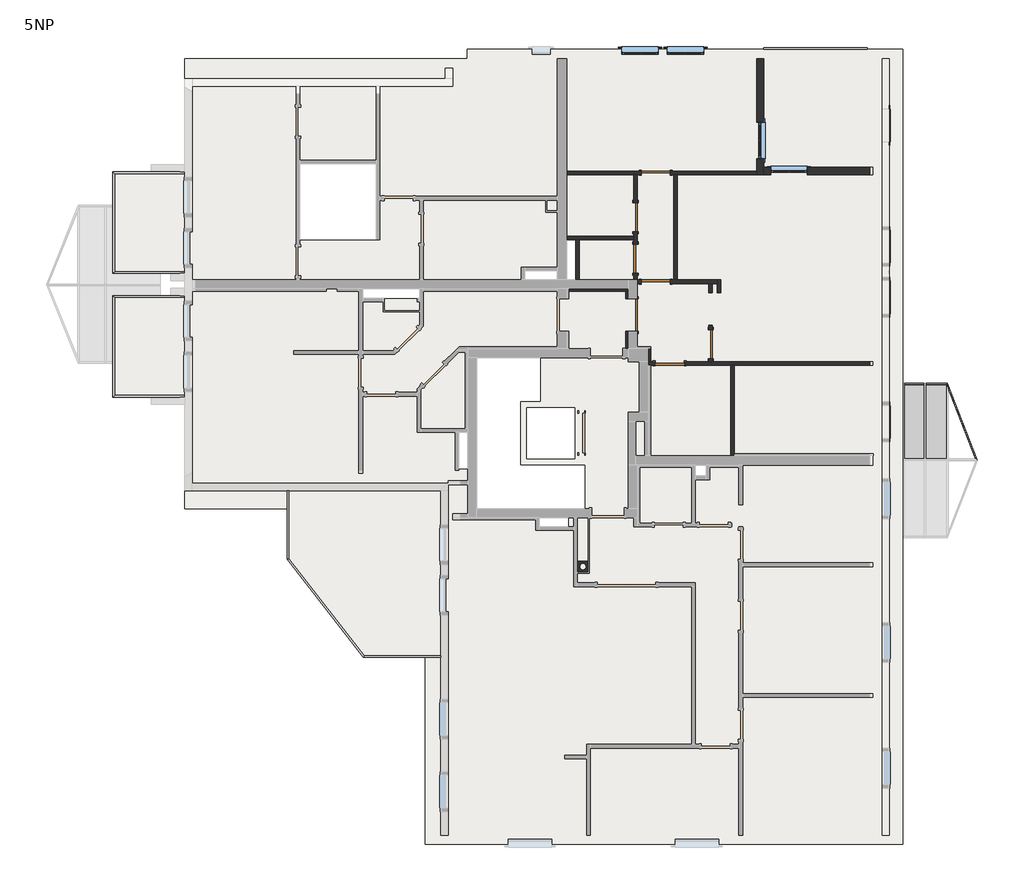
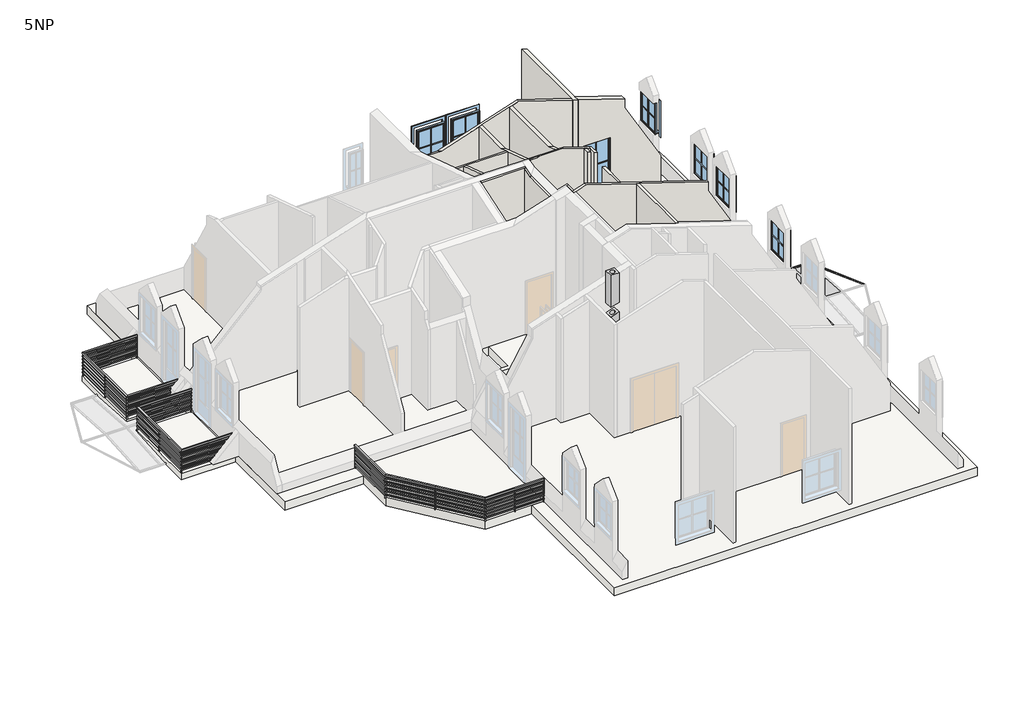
# One storey, part 4 of 4: 16 walls, 8 windows, 7 doors, 4 railings, 4 slabs, 3 members, 2 plates, 1 column.
"""IFC4 building model written with IfcOpenShell, lengths in millimetres."""

from ifc_helpers import new_model, si_unit, frame, origin, place, context, project, spatial, polyline, circle_curve, ellipse_curve, outline, extrude, faceted_brep, transform, mapped, element, save
from ifc_brep_helpers import plane_surface, revolved_surface, advanced_brep
from components import sd_800x2000_6a16926d, sd_800x2000_80f4ff25, sd_900x2000_4224ae2a, rectangular_mullion_40_40_b7ecf7f3, rectangular_mullion_40_40_b48b72c3, rectangular_mullion_40_40_e9a3077c, system_panel_system_panel_b659144f, system_panel_system_panel_996e8192, railing_900mm_pipe_e7dff587, railing_900mm_pipe_7398d77a, railing_900mm_pipe_5438d2cb, railing_900mm_pipe_97c98137, standard_window_with_mullions_12e20a72, standard_window_with_mullions_4f38f980, window_2_5e4ade40, window_2_40adfcd9

model = new_model("IFC4")

# Units and contexts
model_context = context("Model", 3, world=origin())
ifc_project = project(units=[si_unit("LENGTHUNIT", "METRE", prefix="MILLI")], contexts=[model_context])

# Site, building, storey
site = spatial("IfcSite", under=ifc_project)
building = spatial("IfcBuilding", under=site)
storey = spatial("IfcBuildingStorey", under=building, Name="5NP", Elevation=11800.0)

# Column
placement = place(None, origin())
element("IfcColumn", 1, ObjectType="AT Kamin : 300/300/160", at=placement, inside=storey, context=model_context, shape_type="AdvancedBrep", body=[
    advanced_brep(
    [(463.5618728, -3282.3709459, 17750.0), (163.5618728, -3282.3709459, 17750.0), (163.5618728, -3582.3709459, 17750.0), (463.5618728, -3582.3709459, 17750.0), (233.5618728, -3432.3709459, 17750.0), (393.5618728, -3432.3709459, 17750.0), (463.5618728, -3282.3709459, 16623.4506996), (163.5618728, -3282.3709459, 16525.9747908), (163.5618728, -3582.3709459, 16525.9747908), (463.5618728, -3582.3709459, 16623.4506996), (233.5618728, -3432.3709459, 16548.7191695), (393.5618728, -3432.3709459, 16600.7063209)],
    [
        (0, 1),
        (1, 2),
        (2, 3),
        (3, 0),
        (4, 5, circle_curve(frame((313.5618728, -3432.3709459, 17750.0), z_axis=(0.0, 0.0, -1.0), x_axis=(1.0, 0.0, 0.0)), 80.0)),
        (5, 4, circle_curve(frame((313.5618728, -3432.3709459, 17750.0), z_axis=(0.0, 0.0, -1.0), x_axis=(1.0, 0.0, 0.0)), 80.0)),
        (0, 6),
        (6, 7),
        (7, 1),
        (7, 8),
        (8, 2),
        (8, 9),
        (9, 3),
        (9, 6),
        (4, 10),
        (10, 11, ellipse_curve(frame((313.5618728, -3432.3709459, 16574.7127452), z_axis=(0.30901699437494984, 0.0, -0.9510565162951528), x_axis=(-0.9510565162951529, 0.0, -0.30901699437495)), 84.1169779, 80.0)),
        (11, 5),
        (11, 10, ellipse_curve(frame((313.5618728, -3432.3709459, 16574.7127452), z_axis=(0.30901699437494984, 0.0, -0.9510565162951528), x_axis=(-0.9510565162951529, 0.0, -0.30901699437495)), 84.1169779, 80.0)),
    ],
    [
        plane_surface(frame((163.5618728, -3282.3709459, 17750.0), z_axis=(0.0, 0.0, 1.0), x_axis=(-1.0, 0.0, 0.0))),
        plane_surface(frame((463.5618728, -3282.3709459, 17750.0), z_axis=(0.0, 1.0, 0.0), x_axis=(0.0, 0.0, -1.0))),
        plane_surface(frame((163.5618728, -3282.3709459, 17750.0), z_axis=(-1.0, 0.0, 0.0), x_axis=(0.0, 0.0, -1.0))),
        plane_surface(frame((163.5618728, -3582.3709459, 17750.0), z_axis=(0.0, -1.0, 0.0), x_axis=(0.0, 0.0, -1.0))),
        plane_surface(frame((463.5618728, -3582.3709459, 17750.0), z_axis=(1.0, 0.0, 0.0), x_axis=(0.0, 0.0, -1.0))),
        revolved_surface(polyline([(393.5618728, -3432.3709459, 16548.7191695), (393.5618728, -3432.3709459, 17750.0)]), (313.5618728, -3432.3709459, 11800.0), (0.0, 0.0, -1.0)),
        plane_surface(frame((-1841.5846805, 437.0391776, 15874.4631818), z_axis=(0.30901699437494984, 0.0, -0.9510565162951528), x_axis=(0.0, -1.0, 0.0))),
    ],
    [
        (0, [[1, 2, 3, 4], [5, 6]]),
        (1, [[-1, 7, 8, 9]]),
        (2, [[-2, -9, 10, 11]]),
        (3, [[-3, -11, 12, 13]]),
        (4, [[-4, -13, 14, -7]]),
        (5, [[-5, 15, 16, 17]]),
        (5, [[-6, -17, 18, -15]]),
        (6, [[-8, -14, -12, -10], [-16, -18]]),
    ],
),
    advanced_brep(
    [(463.5618728, -3282.3709459, 11800.0), (463.5618728, -3582.3709459, 11800.0), (163.5618728, -3582.3709459, 11800.0), (163.5618728, -3282.3709459, 11800.0), (233.5618728, -3432.3709459, 11800.0), (393.5618728, -3432.3709459, 11800.0), (463.5618728, -3282.3709459, 16244.9242989), (163.5618728, -3282.3709459, 16147.44839), (163.5618728, -3582.3709459, 16147.44839), (463.5618728, -3582.3709459, 16244.9242989), (233.5618728, -3432.3709459, 16170.1927688), (393.5618728, -3432.3709459, 16222.1799202), (163.5618728, -3582.3709459, 14750.0), (463.5618728, -3582.3709459, 14750.0)],
    [
        (0, 1),
        (1, 2),
        (2, 3),
        (3, 0),
        (4, 5, circle_curve(frame((313.5618728, -3432.3709459, 11800.0), z_axis=(0.0, 0.0, 1.0), x_axis=(1.0, 0.0, 0.0)), 80.0)),
        (5, 4, circle_curve(frame((313.5618728, -3432.3709459, 11800.0), z_axis=(0.0, 0.0, 1.0), x_axis=(1.0, 0.0, 0.0)), 80.0)),
        (6, 7),
        (7, 8),
        (8, 9),
        (9, 6),
        (10, 11, ellipse_curve(frame((313.5618728, -3432.3709459, 16196.1863445), z_axis=(0.30901699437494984, 0.0, -0.9510565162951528), x_axis=(-0.9510565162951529, 0.0, -0.30901699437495)), 84.1169779, 80.0)),
        (11, 10, ellipse_curve(frame((313.5618728, -3432.3709459, 16196.1863445), z_axis=(0.30901699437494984, 0.0, -0.9510565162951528), x_axis=(-0.9510565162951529, 0.0, -0.30901699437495)), 84.1169779, 80.0)),
        (3, 7),
        (6, 0),
        (2, 12),
        (12, 8),
        (1, 13),
        (13, 9),
        (5, 11),
        (10, 4),
    ],
    [
        plane_surface(frame((163.5618728, -3282.3709459, 11800.0), z_axis=(0.0, 0.0, -1.0), x_axis=(1.0, 0.0, 0.0))),
        plane_surface(frame((-1841.5846805, 437.0391776, 15495.936781), z_axis=(-0.30901699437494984, 0.0, 0.9510565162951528), x_axis=(0.0, -1.0, 0.0))),
        plane_surface(frame((463.5618728, -3282.3709459, 17750.0), z_axis=(0.0, 1.0, 0.0), x_axis=(0.0, 0.0, -1.0))),
        plane_surface(frame((163.5618728, -3282.3709459, 17750.0), z_axis=(-1.0, 0.0, 0.0), x_axis=(0.0, 0.0, -1.0))),
        plane_surface(frame((163.5618728, -3582.3709459, 17750.0), z_axis=(0.0, -1.0, 0.0), x_axis=(0.0, 0.0, -1.0))),
        plane_surface(frame((463.5618728, -3582.3709459, 17750.0), z_axis=(1.0, 0.0, 0.0), x_axis=(0.0, 0.0, -1.0))),
        revolved_surface(polyline([(393.5618728, -3432.3709459, 11800.0), (393.5618728, -3432.3709459, 16222.1799202)]), (313.5618728, -3432.3709459, 11800.0), (0.0, 0.0, -1.0)),
    ],
    [
        (0, [[1, 2, 3, 4], [5, 6]]),
        (1, [[7, 8, 9, 10], [11, 12]]),
        (2, [[-4, 13, -7, 14]]),
        (3, [[-3, 15, 16, -8, -13]]),
        (4, [[-2, 17, 18, -9, -16, -15]]),
        (5, [[-1, -14, -10, -18, -17]]),
        (6, [[-6, 19, -11, 20]]),
        (6, [[-5, -20, -12, -19]]),
    ],
),
])

# Doors
sd_800x2000_shape = sd_800x2000_6a16926d(model_context)
element("IfcDoor", 2, ObjectType="JednokridlePlne : SD 800x2000", at=placement, inside=storey, context=model_context, shape_type="MappedRepresentation", body=[
    mapped(sd_800x2000_shape, transform((1762.8037835, 6195.7160827, 11800.0), x_axis=(0.0, 1.0, 0.0), y_axis=(-1.0, 0.0, 0.0), z_axis=(0.0, 0.0, 1.0))),
])
element("IfcDoor", 3, ObjectType="JednokridlePlne : SD 800x2000", at=placement, inside=storey, context=model_context, shape_type="MappedRepresentation", body=[
    mapped(sd_800x2000_shape, transform((3832.8037835, 2700.9736217, 11800.0), x_axis=(0.0, 1.0, 0.0), y_axis=(-1.0, 0.0, 0.0), z_axis=(0.0, 0.0, 1.0))),
])
element("IfcDoor", 4, ObjectType="JednokridlePlne : SD 800x2000", at=placement, inside=storey, context=model_context, shape_type="MappedRepresentation", body=[
    mapped(sd_800x2000_shape, transform((2702.9629379, 2166.2076978, 11800.0), x_axis=(1.0, 0.0, 0.0), y_axis=(0.0, 1.0, 0.0), z_axis=(0.0, 0.0, 1.0))),
])
sd_800x2000_2_shape = sd_800x2000_80f4ff25(model_context)
element("IfcDoor", 5, ObjectType="JednokridlePlne : SD 800x2000", at=placement, inside=storey, context=model_context, shape_type="MappedRepresentation", body=[
    mapped(sd_800x2000_2_shape, transform((2320.391243, 7417.6290541, 11800.0), x_axis=(1.0, 0.0, 0.0), y_axis=(0.0, 1.0, 0.0), z_axis=(0.0, 0.0, 1.0))),
])
element("IfcDoor", 6, ObjectType="JednokridlePlne : SD 800x2000", at=placement, inside=storey, context=model_context, shape_type="MappedRepresentation", body=[
    mapped(sd_800x2000_2_shape, transform((2320.391243, 4417.6290541, 11800.0), x_axis=(1.0, 0.0, 0.0), y_axis=(0.0, 1.0, 0.0), z_axis=(0.0, 0.0, 1.0))),
])
element("IfcDoor", 7, ObjectType="JednokridlePlne : SD 800x2000", at=placement, inside=storey, context=model_context, shape_type="MappedRepresentation", body=[
    mapped(sd_800x2000_2_shape, transform((1762.8037835, 5053.6933044, 11800.0), x_axis=(0.0, 1.0, 0.0), y_axis=(-1.0, 0.0, 0.0), z_axis=(0.0, 0.0, 1.0))),
])
sd_900x2000_shape = sd_900x2000_4224ae2a(model_context)
element("IfcDoor", 8, ObjectType="JednokridlePlne : SD 900x2000", at=placement, inside=storey, context=model_context, shape_type="MappedRepresentation", body=[
    mapped(sd_900x2000_shape, transform((1687.8037835, 3497.5977832, 11800.0), x_axis=(0.0, -0.9999999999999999, 0.0), y_axis=(0.9999999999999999, 0.0, 0.0), z_axis=(0.0, 0.0, 1.0))),
])

# Members
rectangular_mullion_40_40_shape = rectangular_mullion_40_40_b7ecf7f3(model_context)
element("IfcMember", 9, ObjectType="Rectangular Mullion : 40/40", at=placement, inside=storey, context=model_context, shape_type="MappedRepresentation", body=[
    mapped(rectangular_mullion_40_40_shape, transform((10358.061535, 1617.6578188, 11529.9979886), x_axis=(0.7382125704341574, 0.6729249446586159, -0.04705549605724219), y_axis=(0.0, -0.06975647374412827, -0.9975640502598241), z_axis=(-0.6745681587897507, 0.7364143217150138, -0.05149510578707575))),
])
rectangular_mullion_40_40_2_shape = rectangular_mullion_40_40_b48b72c3(model_context)
element("IfcMember", 10, ObjectType="Rectangular Mullion : 40/40", at=placement, inside=storey, context=model_context, shape_type="MappedRepresentation", body=[
    mapped(rectangular_mullion_40_40_2_shape, transform((9172.8037835, 1617.6290541, 11530.0), x_axis=(0.0, 0.9975640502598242, -0.06975647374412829), y_axis=(0.0, -0.06975647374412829, -0.9975640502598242), z_axis=(-1.0, 0.0, 0.0))),
])
rectangular_mullion_40_40_3_shape = rectangular_mullion_40_40_e9a3077c(model_context)
element("IfcMember", 11, ObjectType="Rectangular Mullion : 40/40", at=placement, inside=storey, context=model_context, shape_type="MappedRepresentation", body=[
    mapped(rectangular_mullion_40_40_3_shape, transform((9765.4168815, 1617.6290541, 11530.0), x_axis=(0.0, 0.9975640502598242, -0.06975647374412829), y_axis=(0.0, -0.06975647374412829, -0.9975640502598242), z_axis=(-1.0, 0.0, 0.0))),
])

# Plates
system_panel_system_panel_shape = system_panel_system_panel_b659144f(model_context)
element("IfcPlate", 12, ObjectType="System Panel : System Panel", at=placement, inside=storey, context=model_context, shape_type="MappedRepresentation", body=[
    mapped(system_panel_system_panel_shape, transform((10051.7234305, 1577.7264921, 11532.7902589), x_axis=(-1.0, 0.0, 0.0), y_axis=(0.0, -0.06975647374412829, -0.9975640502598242), z_axis=(0.0, -0.9975640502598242, 0.06975647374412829))),
])
system_panel_system_panel_2_shape = system_panel_system_panel_996e8192(model_context)
element("IfcPlate", 13, ObjectType="System Panel : System Panel", at=placement, inside=storey, context=model_context, shape_type="MappedRepresentation", body=[
    mapped(system_panel_system_panel_2_shape, transform((9449.1103325, 1577.7264921, 11532.7902589), x_axis=(-1.0, 0.0, 0.0), y_axis=(0.0, -0.06975647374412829, -0.9975640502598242), z_axis=(0.0, -0.9975640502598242, 0.06975647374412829))),
])

# Railings
railing_900mm_pipe_shape = railing_900mm_pipe_e7dff587(model_context)
element("IfcRailing", 14, ObjectType="900mm Pipe", at=placement, inside=storey, context=model_context, shape_type="MappedRepresentation", body=[
    mapped(railing_900mm_pipe_shape, transform((0.0, 0.0, 0.0), x_axis=(1.0, 0.0, 0.0), y_axis=(0.0, 1.0, 0.0), z_axis=(0.0, 0.0, 1.0))),
])
railing_900mm_pipe_2_shape = railing_900mm_pipe_7398d77a(model_context)
element("IfcRailing", 15, ObjectType="900mm Pipe", at=placement, inside=storey, context=model_context, shape_type="MappedRepresentation", body=[
    mapped(railing_900mm_pipe_2_shape, transform((0.0, 0.0, 0.0), x_axis=(1.0, 0.0, 0.0), y_axis=(0.0, 1.0, 0.0), z_axis=(0.0, 0.0, 1.0))),
])
railing_900mm_pipe_3_shape = railing_900mm_pipe_5438d2cb(model_context)
element("IfcRailing", 16, ObjectType="900mm Pipe", at=placement, inside=storey, context=model_context, shape_type="MappedRepresentation", body=[
    mapped(railing_900mm_pipe_3_shape, transform((0.0, 0.0, 0.0), x_axis=(1.0, 0.0, 0.0), y_axis=(0.0, 1.0, 0.0), z_axis=(0.0, 0.0, 1.0))),
])
railing_900mm_pipe_4_shape = railing_900mm_pipe_97c98137(model_context)
element("IfcRailing", 17, ObjectType="900mm Pipe", at=placement, inside=storey, context=model_context, shape_type="MappedRepresentation", body=[
    mapped(railing_900mm_pipe_4_shape, transform((0.0, 0.0, 0.0), x_axis=(1.0, 0.0, 0.0), y_axis=(0.0, 1.0, 0.0), z_axis=(0.0, 0.0, 1.0))),
])

# Slabs
element("IfcSlab", 18, ObjectType="Concrete", at=placement, inside=storey, context=model_context, shape_type="SweptSolid", body=[
    extrude(outline(polyline([(-10656.4352243, 4647.6290541), (-12637.1962165, 4647.6290541), (-12637.1962165, 7447.6290541), (-10656.4352243, 7447.6290541), (-10656.4352243, 4647.6290541)])), frame((0.0, 0.0, 11480.0), z_axis=(0.0, 0.0, 1.0), x_axis=(1.0, 0.0, 0.0)), (0.0, 0.0, 1.0), 220.0),
])
element("IfcSlab", 19, ObjectType="Concrete", at=placement, inside=storey, context=model_context, shape_type="SweptSolid", body=[
    extrude(outline(polyline([(-10656.4352243, 1237.6290541), (-12637.1962165, 1237.6290541), (-12637.1962165, 4037.6290541), (-10656.4352243, 4037.6290541), (-10656.4352243, 1237.6290541)])), frame((0.0, 0.0, 11480.0), z_axis=(0.0, 0.0, 1.0), x_axis=(1.0, 0.0, 0.0)), (0.0, 0.0, 1.0), 220.0),
])
element("IfcSlab", 20, ObjectType="STB200 + 120", at=placement, inside=storey, context=model_context, shape_type="Brep", body=[
    faceted_brep([(-7787.1962165, -1832.3709459, 11480.0), (-10656.4352243, -1832.3709459, 11480.0), (-10656.4352243, 10567.6290541, 11480.0), (-2867.1962165, 10567.6290541, 11480.0), (-2867.1962165, 10817.6290541, 11480.0), (9132.8037835, 10817.6290541, 11480.0), (9132.8037835, -11082.3709459, 11480.0), (-4037.1962165, -11082.3709459, 11480.0), (-4037.1962165, -5882.3709459, 11480.0), (-3598.9496412, -5882.3709459, 11480.0), (-3598.9496412, -1338.1208451, 11480.0), (-7787.1962165, -1338.1208451, 11480.0), (-857.1962165, 1117.6290541, 11480.0), (-857.1962165, 2317.6290541, 11480.0), (-2607.1962165, 2317.6290541, 11480.0), (-2607.1962165, -1832.3709459, 11480.0), (362.8037835, -1832.3709459, 11480.0), (362.8037835, -632.3709459, 11480.0), (-1407.1962165, -632.3709459, 11480.0), (-1407.1962165, 1117.6290541, 11480.0), (-7487.1962165, 5567.6290541, 11480.0), (-5387.1962165, 5567.6290541, 11480.0), (-5387.1962165, 7667.6290541, 11480.0), (-7487.1962165, 7667.6290541, 11480.0), (-387.1962165, 4717.6290541, 11480.0), (-1287.1962165, 4717.6290541, 11480.0), (-1287.1962165, 4467.6290541, 11480.0), (-387.1962165, 4467.6290541, 11480.0), (112.8037835, 5567.6290541, 11480.0), (-137.1962165, 5567.6290541, 11480.0), (-137.1962165, 4467.6290541, 11480.0), (112.8037835, 4467.6290541, 11480.0), (-5757.1962165, 3967.6290541, 11480.0), (-4187.1962165, 3967.6290541, 11480.0), (-4187.1962165, 4217.6290541, 11480.0), (-5757.1962165, 4217.6290541, 11480.0), (-2857.1962165, 267.6290541, 11480.0), (-3107.1962165, 267.6290541, 11480.0), (-3107.1962165, -732.3709459, 11480.0), (-2857.1962165, -732.3709459, 11480.0), (-86.4381272, -2082.3709459, 11480.0), (-886.4381272, -2082.3709459, 11480.0), (-886.4381272, -2332.3709459, 11480.0), (-86.4381272, -2332.3709459, 11480.0), (3712.8037835, -632.3709459, 11480.0), (3412.8037835, -632.3709459, 11480.0), (3412.8037835, -932.3709459, 11480.0), (3712.8037835, -932.3709459, 11480.0), (87.8037835, 947.6290541, 11480.0), (-1237.1962165, 947.6290541, 11480.0), (-1237.1962165, -462.3709459, 11480.0), (87.8037835, -462.3709459, 11480.0), (-10656.4352243, -1832.3709459, 11800.0), (-7787.1962165, -1832.3709459, 11800.0), (-7787.1962165, -1338.1208451, 11800.0), (-3598.9496412, -1338.1208451, 11800.0), (-3598.9496412, -3772.3709459, 11800.0), (-3598.9496412, -4672.3709459, 11800.0), (-3598.9496412, -5882.3709459, 11800.0), (-4037.1962165, -5882.3709459, 11800.0), (-4037.1962165, -11082.3709459, 11800.0), (9132.8037835, -11082.3709459, 11800.0), (9132.8037835, 10817.6290541, 11800.0), (-2867.1962165, 10817.6290541, 11800.0), (-2867.1962165, 10567.6290541, 11800.0), (-10656.4352243, 10567.6290541, 11800.0), (-857.1962165, 2317.6290541, 11800.0), (-857.1962165, 1117.6290541, 11800.0), (-1407.1962165, 1117.6290541, 11800.0), (-1407.1962165, -632.3709459, 11800.0), (362.8037835, -632.3709459, 11800.0), (362.8037835, -1832.3709459, 11800.0), (-2607.1962165, -1832.3709459, 11800.0), (-2607.1962165, 2317.6290541, 11800.0), (-5387.1962165, 5567.6290541, 11800.0), (-7487.1962165, 5567.6290541, 11800.0), (-7487.1962165, 7667.6290541, 11800.0), (-5387.1962165, 7667.6290541, 11800.0), (-1287.1962165, 4717.6290541, 11800.0), (-387.1962165, 4717.6290541, 11800.0), (-387.1962165, 4467.6290541, 11800.0), (-1287.1962165, 4467.6290541, 11800.0), (-137.1962165, 5567.6290541, 11800.0), (112.8037835, 5567.6290541, 11800.0), (112.8037835, 4467.6290541, 11800.0), (-137.1962165, 4467.6290541, 11800.0), (-4187.1962165, 3967.6290541, 11800.0), (-5757.1962165, 3967.6290541, 11800.0), (-5757.1962165, 4217.6290541, 11800.0), (-4187.1962165, 4217.6290541, 11800.0), (-3107.1962165, 267.6290541, 11800.0), (-2857.1962165, 267.6290541, 11800.0), (-2857.1962165, -732.3709459, 11800.0), (-3107.1962165, -732.3709459, 11800.0), (-886.4381272, -2082.3709459, 11800.0), (-86.4381272, -2082.3709459, 11800.0), (-86.4381272, -2332.3709459, 11800.0), (-886.4381272, -2332.3709459, 11800.0), (3412.8037835, -632.3709459, 11800.0), (3712.8037835, -632.3709459, 11800.0), (3712.8037835, -932.3709459, 11800.0), (3412.8037835, -932.3709459, 11800.0), (-1237.1962165, 947.6290541, 11800.0), (87.8037835, 947.6290541, 11800.0), (87.8037835, -462.3709459, 11800.0), (-1237.1962165, -462.3709459, 11800.0)], [[[0, 1, 2, 3, 4, 5, 6, 7, 8, 9, 10, 11], [12, 13, 14, 15, 16, 17, 18, 19], [20, 21, 22, 23], [24, 25, 26, 27], [28, 29, 30, 31], [32, 33, 34, 35], [36, 37, 38, 39], [40, 41, 42, 43], [44, 45, 46, 47], [48, 49, 50, 51]], [[52, 53, 54, 55, 56, 57, 58, 59, 60, 61, 62, 63, 64, 65], [66, 67, 68, 69, 70, 71, 72, 73], [74, 75, 76, 77], [78, 79, 80, 81], [82, 83, 84, 85], [86, 87, 88, 89], [90, 91, 92, 93], [94, 95, 96, 97], [98, 99, 100, 101], [102, 103, 104, 105]], [[1, 0, 53, 52]], [[2, 1, 52, 65]], [[3, 2, 65, 64]], [[4, 3, 64, 63]], [[5, 4, 63, 62]], [[6, 5, 62, 61]], [[7, 6, 61, 60]], [[8, 7, 60, 59]], [[9, 8, 59, 58]], [[10, 9, 58, 57, 56, 55]], [[11, 10, 55, 54]], [[0, 11, 54, 53]], [[13, 12, 67, 66]], [[14, 13, 66, 73]], [[15, 14, 73, 72]], [[16, 15, 72, 71]], [[17, 16, 71, 70]], [[18, 17, 70, 69]], [[19, 18, 69, 68]], [[12, 19, 68, 67]], [[21, 20, 75, 74]], [[22, 21, 74, 77]], [[23, 22, 77, 76]], [[20, 23, 76, 75]], [[25, 24, 79, 78]], [[26, 25, 78, 81]], [[27, 26, 81, 80]], [[24, 27, 80, 79]], [[29, 28, 83, 82]], [[30, 29, 82, 85]], [[31, 30, 85, 84]], [[28, 31, 84, 83]], [[33, 32, 87, 86]], [[34, 33, 86, 89]], [[35, 34, 89, 88]], [[32, 35, 88, 87]], [[37, 36, 91, 90]], [[38, 37, 90, 93]], [[39, 38, 93, 92]], [[36, 39, 92, 91]], [[41, 40, 95, 94]], [[42, 41, 94, 97]], [[43, 42, 97, 96]], [[40, 43, 96, 95]], [[45, 44, 99, 98]], [[46, 45, 98, 101]], [[47, 46, 101, 100]], [[44, 47, 100, 99]], [[49, 48, 103, 102]], [[50, 49, 102, 105]], [[51, 50, 105, 104]], [[48, 51, 104, 103]]]),
])
element("IfcSlab", 21, ObjectType="STB200 + 120 Roof", at=placement, inside=storey, context=model_context, shape_type="Brep", body=[
    faceted_brep([(-7787.1962165, -1338.1208451, 11480.0), (-3598.9496412, -1338.1208451, 11480.0), (-3598.9496412, -5882.3709459, 11480.0), (-4037.1962165, -5882.3709459, 11480.0), (-5712.7420262, -5882.3709459, 11480.0), (-7787.1962165, -3215.2155584, 11480.0), (-7787.1962165, -1832.3709459, 11480.0), (-7787.1962165, -1338.1208451, 11800.0), (-7787.1962165, -1832.3709459, 11800.0), (-7787.1962165, -3215.2155584, 11800.0), (-5712.7420262, -5882.3709459, 11800.0), (-4037.1962165, -5882.3709459, 11800.0), (-3598.9496412, -5882.3709459, 11800.0), (-3598.9496412, -1338.1208451, 11800.0)], [[[0, 1, 2, 3, 4, 5, 6]], [[7, 8, 9, 10, 11, 12, 13]], [[1, 0, 7, 13]], [[2, 1, 13, 12]], [[4, 3, 2, 12, 11, 10]], [[5, 4, 10, 9]], [[0, 6, 5, 9, 8, 7]]]),
])

# Walls
element("IfcWall", 22, ObjectType="Exterior - 150+50mm", at=placement, inside=storey, context=model_context, shape_type="Brep", body=[
    faceted_brep([(5102.8037835, 7808.747067, 14200.0), (5102.8037835, 7808.747067, 11800.0), (5102.8037835, 7467.6290541, 11800.0), (5102.8037835, 7367.6290541, 11800.0), (5102.8037835, 7367.6290541, 16107.6879523), (5102.8037835, 7467.6290541, 16107.6879523), (5102.8037835, 10567.6290541, 16107.6879523), (5102.8037835, 10567.6290541, 11800.0), (5102.8037835, 8808.747067, 11800.0), (5102.8037835, 8808.747067, 14200.0), (5302.8037835, 7367.6290541, 11800.0), (5302.8037835, 7567.6290541, 11800.0), (5302.8037835, 7808.747067, 11800.0), (5302.8037835, 7808.747067, 14200.0), (5302.8037835, 8808.747067, 14200.0), (5302.8037835, 8808.747067, 11800.0), (5302.8037835, 10567.6290541, 11800.0), (5302.8037835, 10567.6290541, 14600.0), (5302.8037835, 10567.6290541, 16042.7040131), (5302.8037835, 7567.6290541, 16042.7040131), (5302.8037835, 7367.6290541, 16042.7040131)], [[[0, 1, 2, 3, 4, 5, 6, 7, 8, 9]], [[10, 11, 12, 13, 14, 15, 16, 17, 18, 19, 20]], [[3, 2, 1, 12, 11, 10]], [[8, 7, 16, 15]], [[4, 3, 10, 20]], [[7, 6, 18, 17, 16]], [[6, 5, 4, 20, 19, 18]], [[13, 12, 1, 0]], [[14, 13, 0, 9]], [[15, 14, 9, 8]]]),
])
element("IfcWall", 23, ObjectType="Exterior - 150+50mm", at=placement, inside=storey, context=model_context, shape_type="SweptSolid", body=[
    extrude(outline(polyline([(11800.0, 5302.8037835), (11800.0, 5491.3587324), (14200.0, 5491.3587324), (14200.0, 6491.3587324), (11800.0, 6491.3587324), (11800.0, 8302.8037835), (12878.7941791, 8302.8037835), (15160.2921908, 6985.5802922), (15495.936781, 6985.5802922), (16042.7040131, 5302.8037835), (11800.0, 5302.8037835)])), frame((0.0, 7367.6290541, 0.0), z_axis=(0.0, 1.0, 0.0), x_axis=(0.0, 0.0, 1.0)), (0.0, 0.0, 1.0), 200.0),
])
element("IfcWall", 24, ObjectType="Interior - 100mm", at=placement, inside=storey, context=model_context, shape_type="Brep", body=[
    faceted_brep([(2720.391243, 7367.6290541, 13800.0), (2720.391243, 7367.6290541, 11800.0), (2812.8037835, 7367.6290541, 11800.0), (2912.8037835, 7367.6290541, 11800.0), (5102.8037835, 7367.6290541, 11800.0), (5102.8037835, 7367.6290541, 16107.6879523), (3156.9978058, 7367.6290541, 16739.9186395), (2912.8037835, 7367.6290541, 16660.5751919), (2812.8037835, 7367.6290541, 16628.0832223), (1812.8037835, 7367.6290541, 16303.1635261), (1712.8037835, 7367.6290541, 16270.6715565), (332.8037835, 7367.6290541, 15822.2823757), (-137.1962165, 7367.6290541, 15822.2823757), (-137.1962165, 7367.6290541, 11800.0), (1712.8037835, 7367.6290541, 11800.0), (1812.8037835, 7367.6290541, 11800.0), (1920.391243, 7367.6290541, 11800.0), (1920.391243, 7367.6290541, 13800.0), (5102.8037835, 7467.6290541, 11800.0), (2720.391243, 7467.6290541, 11800.0), (2720.391243, 7467.6290541, 13800.0), (1920.391243, 7467.6290541, 13800.0), (1920.391243, 7467.6290541, 11800.0), (-137.1962165, 7467.6290541, 11800.0), (-137.1962165, 7467.6290541, 15789.790406), (232.8037835, 7467.6290541, 15789.790406), (3156.9978058, 7467.6290541, 16739.9186395), (5102.8037835, 7467.6290541, 16107.6879523)], [[[0, 1, 2, 3, 4, 5, 6, 7, 8, 9, 10, 11, 12, 13, 14, 15, 16, 17]], [[18, 19, 20, 21, 22, 23, 24, 25, 26, 27]], [[4, 3, 2, 1, 19, 18]], [[16, 15, 14, 13, 23, 22]], [[13, 12, 24, 23]], [[5, 4, 18, 27]], [[12, 11, 25, 24]], [[11, 10, 9, 8, 7, 6, 26, 25]], [[6, 5, 27, 26]], [[20, 19, 1, 0]], [[21, 20, 0, 17]], [[22, 21, 17, 16]]]),
])
element("IfcWall", 25, ObjectType="Interior - 100mm", at=placement, inside=storey, context=model_context, shape_type="Brep", body=[
    faceted_brep([(1812.8037835, 5453.6933044, 13800.0), (1812.8037835, 5453.6933044, 11800.0), (1812.8037835, 5795.7160827, 11800.0), (1812.8037835, 5795.7160827, 13800.0), (1812.8037835, 6595.7160827, 13800.0), (1812.8037835, 6595.7160827, 11800.0), (1812.8037835, 7367.6290541, 11800.0), (1812.8037835, 7367.6290541, 16303.1635261), (1812.8037835, 5887.6290541, 16303.1635261), (1812.8037835, 4467.6290541, 16764.5494947), (1812.8037835, 4467.6290541, 11800.0), (1812.8037835, 4653.6933044, 11800.0), (1812.8037835, 4653.6933044, 13800.0), (1712.8037835, 5795.7160827, 11800.0), (1712.8037835, 5667.6290541, 11800.0), (1712.8037835, 5567.6290541, 11800.0), (1712.8037835, 5453.6933044, 11800.0), (1712.8037835, 5453.6933044, 13800.0), (1712.8037835, 4653.6933044, 13800.0), (1712.8037835, 4653.6933044, 11800.0), (1712.8037835, 4467.6290541, 11800.0), (1712.8037835, 4467.6290541, 16764.5494947), (1712.8037835, 5567.6290541, 16407.1378289), (1712.8037835, 5667.6290541, 16374.6458593), (1712.8037835, 5987.6290541, 16270.6715565), (1712.8037835, 7367.6290541, 16270.6715565), (1712.8037835, 7367.6290541, 11800.0), (1712.8037835, 6595.7160827, 11800.0), (1712.8037835, 6595.7160827, 13800.0), (1712.8037835, 5795.7160827, 13800.0)], [[[0, 1, 2, 3, 4, 5, 6, 7, 8, 9, 10, 11, 12]], [[13, 14, 15, 16, 17, 18, 19, 20, 21, 22, 23, 24, 25, 26, 27, 28, 29]], [[6, 5, 27, 26]], [[2, 1, 16, 15, 14, 13]], [[11, 10, 20, 19]], [[7, 6, 26, 25]], [[10, 9, 21, 20]], [[9, 8, 24, 23, 22, 21]], [[8, 7, 25, 24]], [[28, 27, 5, 4]], [[29, 28, 4, 3]], [[13, 29, 3, 2]], [[17, 16, 1, 0]], [[18, 17, 0, 12]], [[19, 18, 12, 11]]]),
])
element("IfcWall", 26, ObjectType="Interior - 100mm", at=placement, inside=storey, context=model_context, shape_type="Brep", body=[
    faceted_brep([(1712.8037835, 5667.6290541, 11800.0), (-137.1962165, 5667.6290541, 11800.0), (-137.1962165, 5667.6290541, 16374.6458593), (1712.8037835, 5667.6290541, 16374.6458593), (1712.8037835, 5567.6290541, 11800.0), (1712.8037835, 5567.6290541, 16407.1378289), (212.8037835, 5567.6290541, 16407.1378289), (112.8037835, 5567.6290541, 16407.1378289), (-137.1962165, 5567.6290541, 16407.1378289), (-137.1962165, 5567.6290541, 11800.0), (112.8037835, 5567.6290541, 11800.0), (212.8037835, 5567.6290541, 11800.0)], [[[0, 1, 2, 3]], [[4, 5, 6, 7, 8, 9, 10, 11]], [[1, 0, 4, 11, 10, 9]], [[0, 3, 5, 4]], [[2, 1, 9, 8]], [[3, 2, 8, 7, 6, 5]]]),
])
element("IfcWall", 27, ObjectType="Interior - 100mm", at=placement, inside=storey, context=model_context, shape_type="SweptSolid", body=[
    extrude(outline(polyline([(5567.6290541, 11800.0), (4467.6290541, 11800.0), (4467.6290541, 16764.5494947), (5567.6290541, 16407.1378289), (5567.6290541, 11800.0)])), frame((112.8037835, 0.0, 0.0), z_axis=(1.0, 0.0, 0.0), x_axis=(0.0, 1.0, 0.0)), (0.0, 0.0, 1.0), 100.0),
])
element("IfcWall", 28, ObjectType="Interior - 100mm", at=placement, inside=storey, context=model_context, shape_type="Brep", body=[
    faceted_brep([(2720.391243, 4367.6290541, 13800.0), (2720.391243, 4367.6290541, 11800.0), (3782.8037835, 4367.6290541, 11800.0), (3882.8037835, 4367.6290541, 11800.0), (4012.8037835, 4367.6290541, 11800.0), (4012.8037835, 4367.6290541, 16461.8504212), (3882.8037835, 4367.6290541, 16504.0899817), (3782.8037835, 4367.6290541, 16536.5819514), (2981.1918282, 4367.6290541, 16797.0414644), (2162.8037835, 4367.6290541, 16797.0414644), (2089.0051959, 4367.6290541, 16773.0628497), (1812.8037835, 4367.6290541, 16773.0628497), (1812.8037835, 4367.6290541, 11800.0), (1920.391243, 4367.6290541, 11800.0), (1920.391243, 4367.6290541, 13800.0), (4012.8037835, 4467.6290541, 11800.0), (2912.8037835, 4467.6290541, 11800.0), (2812.8037835, 4467.6290541, 11800.0), (2720.391243, 4467.6290541, 11800.0), (2720.391243, 4467.6290541, 13800.0), (1920.391243, 4467.6290541, 13800.0), (1920.391243, 4467.6290541, 11800.0), (1812.8037835, 4467.6290541, 11800.0), (1812.8037835, 4467.6290541, 16764.5494947), (2812.8037835, 4467.6290541, 16764.5494947), (2912.8037835, 4467.6290541, 16764.5494947), (3081.1918282, 4467.6290541, 16764.5494947), (3812.8037835, 4467.6290541, 16526.8343605), (4012.8037835, 4467.6290541, 16461.8504212), (1812.8037835, 4404.5283479, 16785.052157), (2125.9044897, 4404.5283479, 16785.052157)], [[[0, 1, 2, 3, 4, 5, 6, 7, 8, 9, 10, 11, 12, 13, 14]], [[15, 16, 17, 18, 19, 20, 21, 22, 23, 24, 25, 26, 27, 28]], [[4, 3, 2, 1, 18, 17, 16, 15]], [[13, 12, 22, 21]], [[12, 11, 29, 23, 22]], [[5, 4, 15, 28]], [[11, 10, 30, 29]], [[10, 9, 30]], [[9, 8, 26, 25, 24, 23, 29, 30]], [[8, 7, 6, 5, 28, 27, 26]], [[19, 18, 1, 0]], [[20, 19, 0, 14]], [[21, 20, 14, 13]]]),
])
element("IfcWall", 29, ObjectType="Interior - 100mm", at=placement, inside=storey, context=model_context, shape_type="Brep", body=[
    faceted_brep([(2812.8037835, 7367.6290541, 11800.0), (2812.8037835, 4467.6290541, 11800.0), (2812.8037835, 4467.6290541, 16764.5494947), (2812.8037835, 4887.6290541, 16628.0832223), (2812.8037835, 7367.6290541, 16628.0832223), (2912.8037835, 7367.6290541, 11800.0), (2912.8037835, 7367.6290541, 16660.5751919), (2912.8037835, 4787.6290541, 16660.5751919), (2912.8037835, 4467.6290541, 16764.5494947), (2912.8037835, 4467.6290541, 11800.0)], [[[0, 1, 2, 3, 4]], [[5, 6, 7, 8, 9]], [[1, 0, 5, 9]], [[0, 4, 6, 5]], [[2, 1, 9, 8]], [[4, 3, 7, 6]], [[3, 2, 8, 7]]]),
])
element("IfcWall", 30, ObjectType="Interior - 100mm", at=placement, inside=storey, context=model_context, shape_type="Brep", body=[
    faceted_brep([(4482.8037835, -382.3709459, 11800.0), (4482.8037835, -317.3709459, 11800.0), (4482.8037835, 2116.2076978, 11800.0), (4482.8037835, 2116.2076978, 16309.138164), (4482.8037835, -317.3709459, 16309.138164), (4482.8037835, -382.3709459, 16309.138164), (4382.8037835, -382.3709459, 11800.0), (4382.8037835, -382.3709459, 16341.6301336), (4382.8037835, 2116.2076978, 16341.6301336), (4382.8037835, 2116.2076978, 11800.0)], [[[0, 1, 2, 3, 4, 5]], [[6, 7, 8, 9]], [[2, 1, 0, 6, 9]], [[0, 5, 7, 6]], [[3, 2, 9, 8]], [[5, 4, 3, 8, 7]]]),
])
element("IfcWall", 31, ObjectType="Interior - 100mm", at=placement, inside=storey, context=model_context, shape_type="Brep", body=[
    faceted_brep([(3102.9629379, 2116.2076978, 13800.0), (3102.9629379, 2116.2076978, 11800.0), (4382.8037835, 2116.2076978, 11800.0), (4482.8037835, 2116.2076978, 11800.0), (8302.8037835, 2116.2076978, 11800.0), (8302.8037835, 2116.2076978, 12878.7941791), (6985.5802922, 2116.2076978, 15160.2921908), (6985.5802922, 2116.2076978, 15495.936781), (4482.8037835, 2116.2076978, 16309.138164), (4382.8037835, 2116.2076978, 16341.6301336), (2571.9978058, 2116.2076978, 16929.9966618), (2177.8037835, 2116.2076978, 16801.9152598), (2112.8037835, 2116.2076978, 16780.7954795), (2112.8037835, 2116.2076978, 11800.0), (2177.8037835, 2116.2076978, 11800.0), (2302.9629379, 2116.2076978, 11800.0), (2302.9629379, 2116.2076978, 13800.0), (8302.8037835, 2216.2076978, 11800.0), (3882.8037835, 2216.2076978, 11800.0), (3782.8037835, 2216.2076978, 11800.0), (3102.9629379, 2216.2076978, 11800.0), (3102.9629379, 2216.2076978, 13800.0), (2302.9629379, 2216.2076978, 13800.0), (2302.9629379, 2216.2076978, 11800.0), (2177.8037835, 2216.2076978, 11800.0), (2112.8037835, 2216.2076978, 11800.0), (2112.8037835, 2216.2076978, 16780.7954795), (2177.8037835, 2216.2076978, 16801.9152598), (2571.9978058, 2216.2076978, 16929.9966618), (3782.8037835, 2216.2076978, 16536.5819514), (3882.8037835, 2216.2076978, 16504.0899817), (6985.5802922, 2216.2076978, 15495.936781), (6985.5802922, 2216.2076978, 15160.2921908), (8302.8037835, 2216.2076978, 12878.7941791)], [[[0, 1, 2, 3, 4, 5, 6, 7, 8, 9, 10, 11, 12, 13, 14, 15, 16]], [[17, 18, 19, 20, 21, 22, 23, 24, 25, 26, 27, 28, 29, 30, 31, 32, 33]], [[4, 3, 2, 1, 20, 19, 18, 17]], [[15, 14, 13, 25, 24, 23]], [[5, 4, 17, 33]], [[13, 12, 26, 25]], [[6, 32, 31, 7]], [[6, 5, 33, 32]], [[12, 11, 10, 28, 27, 26]], [[10, 9, 8, 7, 31, 30, 29, 28]], [[21, 20, 1, 0]], [[22, 21, 0, 16]], [[23, 22, 16, 15]]]),
])
element("IfcWall", 32, ObjectType="Interior - 100mm", at=placement, inside=storey, context=model_context, shape_type="Brep", body=[
    faceted_brep([(3782.8037835, 3216.2076978, 11800.0), (3782.8037835, 3100.9736217, 11800.0), (3782.8037835, 3100.9736217, 13800.0), (3782.8037835, 2300.9736217, 13800.0), (3782.8037835, 2300.9736217, 11800.0), (3782.8037835, 2216.2076978, 11800.0), (3782.8037835, 2216.2076978, 16536.5819514), (3782.8037835, 3216.2076978, 16536.5819514), (3882.8037835, 3100.9736217, 13800.0), (3882.8037835, 3100.9736217, 11800.0), (3882.8037835, 3216.2076978, 11800.0), (3882.8037835, 3216.2076978, 16504.0899817), (3882.8037835, 2216.2076978, 16504.0899817), (3882.8037835, 2216.2076978, 11800.0), (3882.8037835, 2300.9736217, 11800.0), (3882.8037835, 2300.9736217, 13800.0), (3812.8037835, 3216.2076978, 16526.8343605)], [[[0, 1, 2, 3, 4, 5, 6, 7]], [[8, 9, 10, 11, 12, 13, 14, 15]], [[10, 9, 1, 0]], [[14, 13, 5, 4]], [[0, 7, 16, 11, 10]], [[6, 5, 13, 12]], [[7, 6, 12, 11, 16]], [[2, 1, 9, 8]], [[3, 2, 8, 15]], [[4, 3, 15, 14]]]),
])
element("IfcWall", 33, ObjectType="Interior - 100mm", at=placement, inside=storey, context=model_context, shape_type="Brep", body=[
    faceted_brep([(3882.8037835, 4116.2076978, 11800.0), (3882.8037835, 4367.6290541, 11800.0), (3882.8037835, 4367.6290541, 16504.0899817), (3882.8037835, 4116.2076978, 16504.0899817), (3782.8037835, 4116.2076978, 11800.0), (3782.8037835, 4116.2076978, 16536.5819514), (3782.8037835, 4367.6290541, 16536.5819514), (3782.8037835, 4367.6290541, 11800.0), (3812.8037835, 4116.2076978, 16526.8343605)], [[[0, 1, 2, 3]], [[4, 5, 6, 7]], [[1, 0, 4, 7]], [[0, 3, 8, 5, 4]], [[2, 1, 7, 6]], [[3, 2, 6, 5, 8]]]),
])
element("IfcWall", 34, ObjectType="Interior - 100mm", at=placement, inside=storey, context=model_context, shape_type="Brep", body=[
    faceted_brep([(4112.8037835, 4116.2076978, 11800.0), (4112.8037835, 4467.6290541, 11800.0), (4112.8037835, 4467.6290541, 16429.3584516), (4112.8037835, 4116.2076978, 16429.3584516), (4012.8037835, 4116.2076978, 11800.0), (4012.8037835, 4116.2076978, 16461.8504212), (4012.8037835, 4367.6290541, 16461.8504212), (4012.8037835, 4467.6290541, 16461.8504212), (4012.8037835, 4467.6290541, 11800.0), (4012.8037835, 4367.6290541, 11800.0)], [[[0, 1, 2, 3]], [[4, 5, 6, 7, 8, 9]], [[1, 0, 4, 9, 8]], [[0, 3, 5, 4]], [[2, 1, 8, 7]], [[3, 2, 7, 6, 5]]]),
])
element("IfcWall", 35, ObjectType="Interior - 65mm", at=placement, inside=storey, context=model_context, shape_type="Brep", body=[
    faceted_brep([(-72.1962165, 4152.6290541, 11800.0), (1497.8037835, 4152.6290541, 11800.0), (1562.8037835, 4152.6290541, 11800.0), (1562.8037835, 4152.6290541, 16703.205115), (1497.8037835, 4152.6290541, 16703.205115), (-72.1962165, 4152.6290541, 16703.205115), (-72.1962165, 4217.6290541, 11800.0), (-72.1962165, 4217.6290541, 16724.3248953), (1562.8037835, 4217.6290541, 16724.3248953), (1562.8037835, 4217.6290541, 11800.0)], [[[0, 1, 2, 3, 4, 5]], [[6, 7, 8, 9]], [[2, 1, 0, 6, 9]], [[3, 2, 9, 8]], [[0, 5, 7, 6]], [[5, 4, 3, 8, 7]]]),
])
element("IfcWall", 36, ObjectType="Interior - 65mm", at=placement, inside=storey, context=model_context, shape_type="Brep", body=[
    faceted_brep([(1497.8037835, 3047.5977832, 13800.0), (1497.8037835, 3047.5977832, 11800.0), (1497.8037835, 2567.6290541, 11800.0), (1497.8037835, 2567.6290541, 16580.9698664), (1497.8037835, 3776.4276416, 16580.9698664), (1497.8037835, 4152.6290541, 16703.205115), (1497.8037835, 4152.6290541, 11800.0), (1497.8037835, 3947.5977832, 11800.0), (1497.8037835, 3947.5977832, 13800.0), (1562.8037835, 2567.6290541, 11800.0), (1562.8037835, 3047.5977832, 11800.0), (1562.8037835, 3047.5977832, 13800.0), (1562.8037835, 3947.5977832, 13800.0), (1562.8037835, 3947.5977832, 11800.0), (1562.8037835, 4152.6290541, 11800.0), (1562.8037835, 4152.6290541, 16703.205115), (1562.8037835, 3841.4276416, 16602.0896466), (1562.8037835, 2567.6290541, 16602.0896466)], [[[0, 1, 2, 3, 4, 5, 6, 7, 8]], [[9, 10, 11, 12, 13, 14, 15, 16, 17]], [[2, 1, 10, 9]], [[7, 6, 14, 13]], [[6, 5, 15, 14]], [[3, 2, 9, 17]], [[5, 4, 16, 15]], [[4, 3, 17, 16]], [[11, 10, 1, 0]], [[12, 11, 0, 8]], [[13, 12, 8, 7]]]),
])
element("IfcWall", 37, ObjectType="Interior - 65mm", at=placement, inside=storey, context=model_context, shape_type="SweptSolid", body=[
    extrude(outline(polyline([(16780.7954795, 2112.8037835), (11800.0, 2112.8037835), (11800.0, 2177.8037835), (16801.9152598, 2177.8037835), (16780.7954795, 2112.8037835)])), frame((0.0, 2216.2076978, 0.0), z_axis=(0.0, 1.0, 0.0), x_axis=(0.0, 0.0, 1.0)), (0.0, 0.0, 1.0), 351.4213562),
])

# Windows
standard_window_with_mullions_shape = standard_window_with_mullions_12e20a72(model_context)
element("IfcWindow", 38, ObjectType="Standard Window with mullions : 1000/1400", at=placement, inside=storey, context=model_context, shape_type="MappedRepresentation", body=[
    mapped(standard_window_with_mullions_shape, transform((1887.8037835, 10717.6290541, 11800.0), x_axis=(1.0, 0.0, 0.0), y_axis=(0.0, 1.0, 0.0), z_axis=(0.0, 0.0, 1.0))),
])
element("IfcWindow", 39, ObjectType="Standard Window with mullions : 1000/1400", at=placement, inside=storey, context=model_context, shape_type="MappedRepresentation", body=[
    mapped(standard_window_with_mullions_shape, transform((3137.8037835, 10717.6290541, 11800.0), x_axis=(1.0, 0.0, 0.0), y_axis=(0.0, 1.0, 0.0), z_axis=(0.0, 0.0, 1.0))),
])
standard_window_with_mullions_2_shape = standard_window_with_mullions_4f38f980(model_context)
element("IfcWindow", 40, ObjectType="Standard Window with mullions : 900/1200", at=placement, inside=storey, context=model_context, shape_type="MappedRepresentation", body=[
    mapped(standard_window_with_mullions_2_shape, transform((8657.3155772, 555.9947187, 11800.0), x_axis=(0.0, -1.0, 0.0), y_axis=(1.0, 0.0, 0.0), z_axis=(0.0, 0.0, 1.0))),
])
element("IfcWindow", 41, ObjectType="Standard Window with mullions : 900/1200", at=placement, inside=storey, context=model_context, shape_type="MappedRepresentation", body=[
    mapped(standard_window_with_mullions_2_shape, transform((8657.3155772, 5388.4530256, 11800.0), x_axis=(0.0, -1.0, 0.0), y_axis=(1.0, 0.0, 0.0), z_axis=(0.0, 0.0, 1.0))),
])
element("IfcWindow", 42, ObjectType="Standard Window with mullions : 900/1200", at=placement, inside=storey, context=model_context, shape_type="MappedRepresentation", body=[
    mapped(standard_window_with_mullions_2_shape, transform((8657.3155772, 3988.4530256, 11800.0), x_axis=(0.0, -1.0, 0.0), y_axis=(1.0, 0.0, 0.0), z_axis=(0.0, 0.0, 1.0))),
])
element("IfcWindow", 43, ObjectType="Standard Window with mullions : 900/1200", at=placement, inside=storey, context=model_context, shape_type="MappedRepresentation", body=[
    mapped(standard_window_with_mullions_2_shape, transform((8657.3155772, 8725.6927772, 11800.0), x_axis=(0.0, -1.0, 0.0), y_axis=(1.0, 0.0, 0.0), z_axis=(0.0, 0.0, 1.0))),
])
window_2_shape = window_2_5e4ade40(model_context)
element("IfcWindow", 44, ObjectType="Window 2 : 1000/2400", at=placement, inside=storey, context=model_context, shape_type="MappedRepresentation", body=[
    mapped(window_2_shape, transform((5202.8037835, 8308.747067, 11800.0), x_axis=(0.0, 1.0, 0.0), y_axis=(-1.0, 0.0, 0.0), z_axis=(0.0, 0.0, 1.0))),
])
window_2_2_shape = window_2_40adfcd9(model_context)
element("IfcWindow", 45, ObjectType="Window 2 : 1000/2400", at=placement, inside=storey, context=model_context, shape_type="MappedRepresentation", body=[
    mapped(window_2_2_shape, transform((5991.3587324, 7467.6290541, 11800.0), x_axis=(1.0, 0.0, 0.0), y_axis=(0.0, 1.0, 0.0), z_axis=(0.0, 0.0, 1.0))),
])

save(model, "model.ifc")
